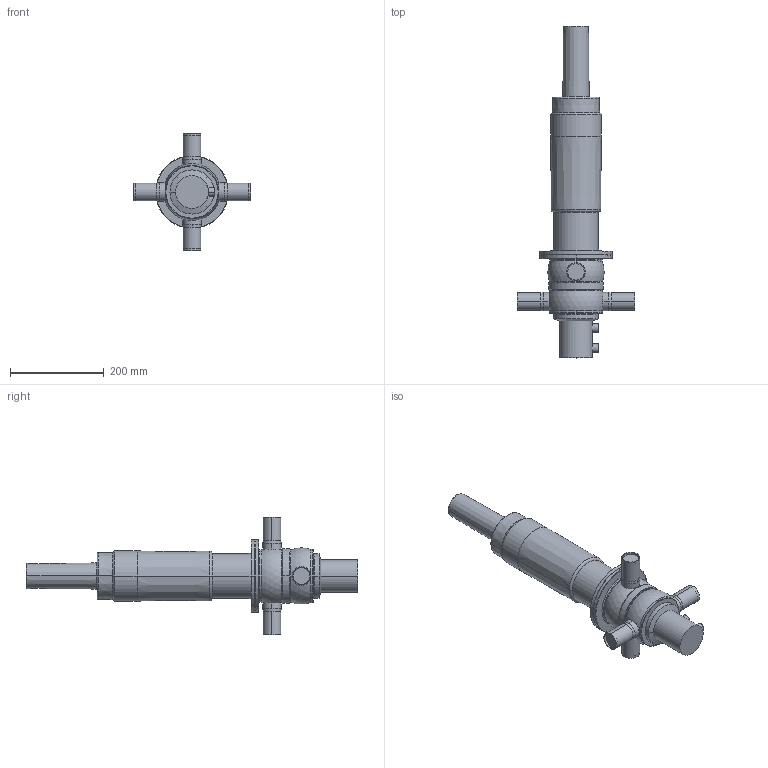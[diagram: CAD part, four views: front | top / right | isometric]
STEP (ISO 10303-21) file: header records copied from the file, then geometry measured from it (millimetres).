
FILE_DESCRIPTION(('Creo Elements/Direct Modeling STEP Export'),'2;1');
FILE_NAME('D44SL-1.5T_prox..stp','2019-09-04T 8:42:47',(''),(''),'PTC Creo Elements/Direct Modeling STEP processor for AP214 (Solid Model)','PTC Creo Elements/Direct Modeling 19.0B 21-Mar-2015 (C) Parametric Technology GmbH','');
FILE_SCHEMA(('AUTOMOTIVE_DESIGN { 1 0 10303 214 1 1 1 1 }'));
Length unit declared in the file: millimetre
Products named in the file (5): D4_Prox._holder.; actuator_D4SL-100_yoke; drain_pipe-62; housing_D44-1.5T; D44SL-1.5T_prox.
Assembly tree (4 placements, depth 2):
  D44SL-1.5T_prox.
    housing_D44-1.5T
    drain_pipe-62
    actuator_D4SL-100_yoke
    D4_Prox._holder.
Bounding box: 250 x 707.35 x 250 mm (x, y, z)
Volume: 5433417.6 mm3; surface area: 356628.7 mm2
Topology: 4 solids, 4 shells, 144 faces, 313 edges, 191 vertices
Faces by surface type: cylinder 58, torus 32, plane 28, cone 22, sphere 4
Entity records: 4504 total; most frequent: CARTESIAN_POINT 1487, ORIENTED_EDGE 626, DIRECTION 606, EDGE_CURVE 313, AXIS2_PLACEMENT_3D 263, VERTEX_POINT 191, EDGE_LOOP 158, FACE_OUTER_BOUND 144
